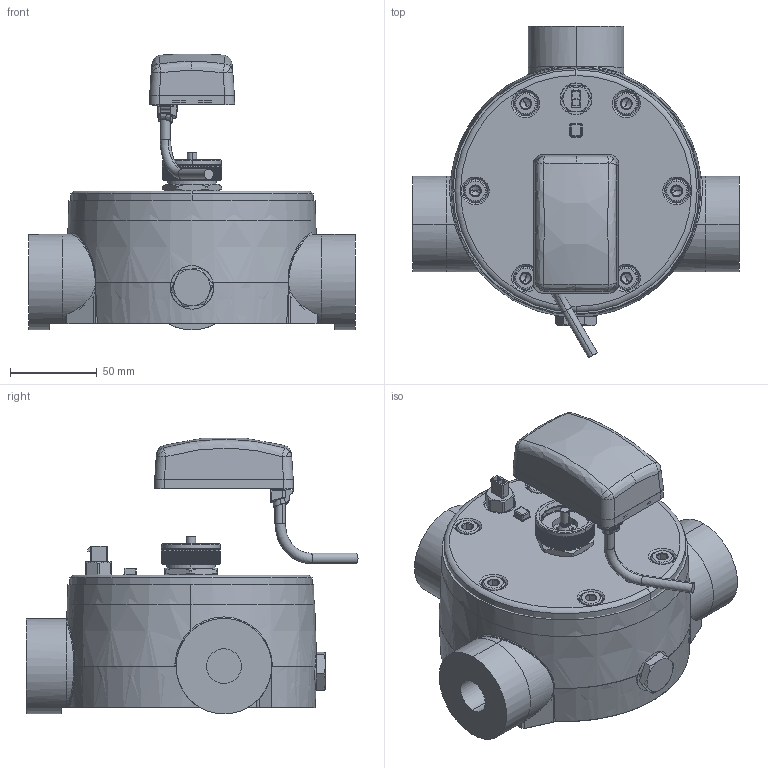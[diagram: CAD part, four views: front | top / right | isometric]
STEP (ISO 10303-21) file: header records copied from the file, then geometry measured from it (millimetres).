
FILE_DESCRIPTION (( 'STEP AP214' ), '1' );
FILE_NAME ('22TX94E37ELECV3.STEP', '2020-02-03T12:45:47', ( '' ), ( '' ), 'SwSTEP 2.0', 'SolidWorks 2017', '' );
FILE_SCHEMA (( 'AUTOMOTIVE_DESIGN' ));
Length unit declared in the file: millimetre
Products named in the file (30): 08082016_003; 1589063_ASM_enveloppe; 028876700001_courb‚; 22TX94E37EV3_Enveloppe; 1788016_asm_enveloppe; 22012567; 1487128; 1589063_STRAIN_RELIEF; 22019082_enveloppe; 04082016_012; 22113429 22113439 22113449 22113459 22113469_22113449; 22108437; 22100382_22100382C; 22018971; 22014733; 22108411_22108411PE; 22018884; 22014886; 04082016_011; 22016124; 22108612; 22TX94E37ELECV3; 22080440_Enveloppe; 22014725; 1589063_SUB_ASM; 148831500104; 148702800002; 22016518; 22018887; 22090248_22010428_22010428M_22010439M
Assembly tree (37 placements, depth 6):
  22TX94E37ELECV3
    22TX94E37EV3_Enveloppe
      22108411_22108411PE
      22080440_Enveloppe
        22090248_22010428_22010428M_22010439M
        22012567  x2
        22018971  x2
        22014886  x2
        22108612
        22113429 22113439 22113449 22113459 22113469_22113449
        22108437
        22016518
        22014725
      22016124  x6
      22014733
      22100382_22100382C
    22019082_enveloppe
      1788016_asm_enveloppe
        148702800002
        148831500104
        1589063_ASM_enveloppe
          1589063_SUB_ASM
            1589063_STRAIN_RELIEF
          028876700001_courb‚
        1487128
    22018884
      22018887
        04082016_011
        04082016_012
        08082016_003
Bounding box: 188 x 191.2 x 158.86 mm (x, y, z)
Volume: 1083640.1 mm3; surface area: 400418.3 mm2
Topology: 29 solids, 29 shells, 2082 faces, 5201 edges, 3200 vertices
Faces by surface type: plane 802, cylinder 627, cone 304, torus 167, bspline 159, sphere 23
Entity records: 102914 total; most frequent: CARTESIAN_POINT 43198, ORIENTED_EDGE 12790, DIRECTION 10849, EDGE_CURVE 6395, AXIS2_PLACEMENT_3D 4178, VERTEX_POINT 4046, EDGE_LOOP 2661, VECTOR 2493
